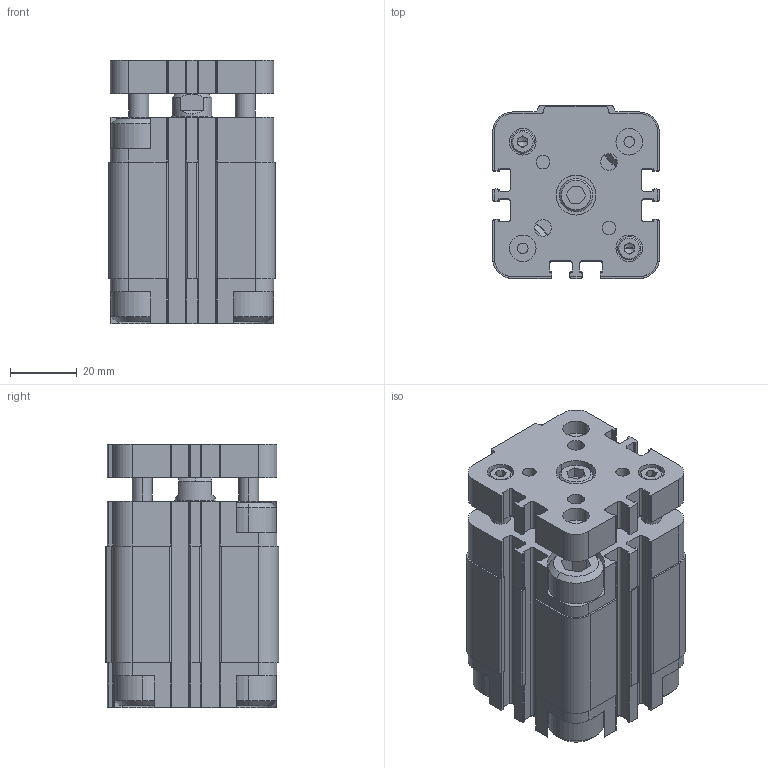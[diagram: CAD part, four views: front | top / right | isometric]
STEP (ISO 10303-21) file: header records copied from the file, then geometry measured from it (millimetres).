
FILE_DESCRIPTION (( 'STEP AP203' ), '1' );
FILE_NAME ('QFA0320020A.step', '2012-10-18T17:10:10', ( '' ), ( '' ), 'SwSTEP 2.0', 'SolidWorks 2012', '' );
FILE_SCHEMA (( 'CONFIG_CONTROL_DESIGN' ));
Length unit declared in the file: millimetre
Products named in the file (1): QFA0320020A
Bounding box: 50 x 52 x 79 mm (x, y, z)
Volume: 154963.2 mm3; surface area: 36006.7 mm2
Topology: 1 solids, 1 shells, 656 faces, 1814 edges, 1192 vertices
Faces by surface type: plane 338, cylinder 275, cone 43
Entity records: 21107 total; most frequent: DIRECTION 3720, CARTESIAN_POINT 3695, ORIENTED_EDGE 3620, EDGE_CURVE 1810, AXIS2_PLACEMENT_3D 1265, VERTEX_POINT 1192, VECTOR 1190, LINE 1190
